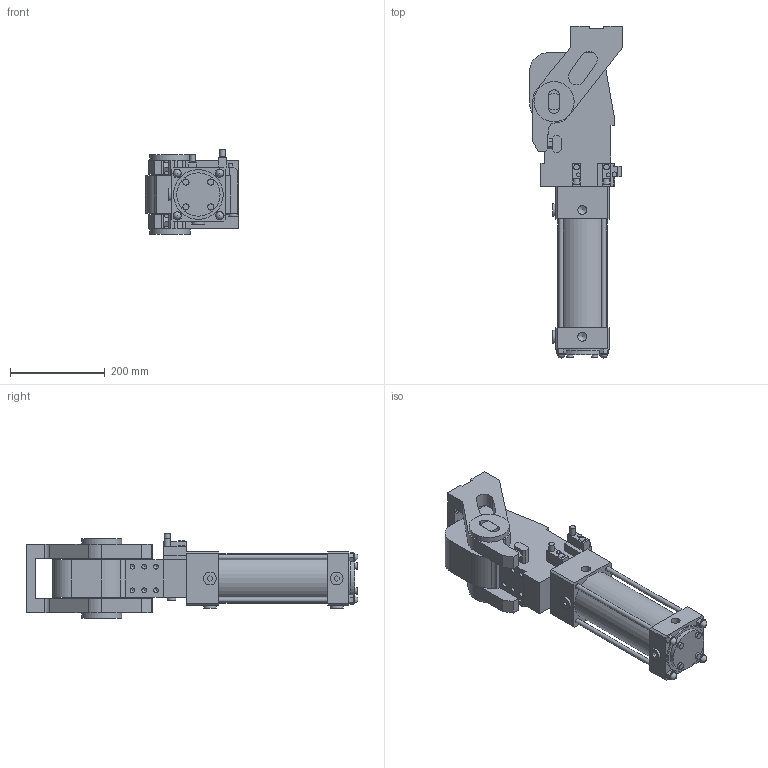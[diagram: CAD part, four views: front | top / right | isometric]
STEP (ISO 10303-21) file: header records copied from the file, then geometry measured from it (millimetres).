
FILE_DESCRIPTION(/* description */ (''),/* implementation_level */ '2;1');
FILE_NAME(/* name */ 'S:\Tom\INVENTOR FILES\AUTOMOTIVE\VEP\DUMP UNITS\C05.P015 RFM.2-RF.2\C05.P015 RFM.2-RF.2\RFM100\SATs\XPUZ100.2-77-4-ESL-P-G-X.stp',/* time_stamp */ '2018-07-29T17:18:37+01:00',/* author */ ('carl'),/* organization */ (''),/* preprocessor_version */ 'ST-DEVELOPER v16.13',/* originating_system */ 'Autodesk Inventor 2018',/* authorisation */ '');
FILE_SCHEMA (('AUTOMOTIVE_DESIGN { 1 0 10303 214 3 1 1 }'));
Length unit declared in the file: millimetre
Products named in the file (11): XPUZ100.2-77-4-ESL-P-G-X_TOP; XPUZ100; XPUZ100_1; XPUZ100_2; XPUZ100_3; XPUZ100_4; XPUZ100_5; XPUZ100_6; XPUZ100_7; XPUZ100_8; XPUZ100_9
Assembly tree (10 placements, depth 2):
  XPUZ100.2-77-4-ESL-P-G-X_TOP
    XPUZ100
    XPUZ100_1
    XPUZ100_2
    XPUZ100_3
    XPUZ100_4
    XPUZ100_5
    XPUZ100_6
    XPUZ100_7
    XPUZ100_8
    XPUZ100_9
Bounding box: 197 x 702 x 179.5 mm (x, y, z)
Volume: 8770311.3 mm3; surface area: 601821.4 mm2
Topology: 10 solids, 10 shells, 377 faces, 909 edges, 600 vertices
Faces by surface type: plane 256, cylinder 99, cone 18, sphere 4
Full cylindrical faces by diameter (mm): 5.5 x2, 8.5 x2, 10 x13, 10.2 x13, 11.8 x2, 12 x2, 13 x5, 16 x4, 18 x1, 19 x6, 20.6 x4, 27 x4, 35 x1, 44 x2, 45.5 x1, 85 x2, 91.5 x1, 105 x2
Entity records: 10701 total; most frequent: DIRECTION 1788, CARTESIAN_POINT 1766, ORIENTED_EDGE 1588, EDGE_CURVE 794, LINE 596, VECTOR 596, AXIS2_PLACEMENT_3D 596, VERTEX_POINT 574
